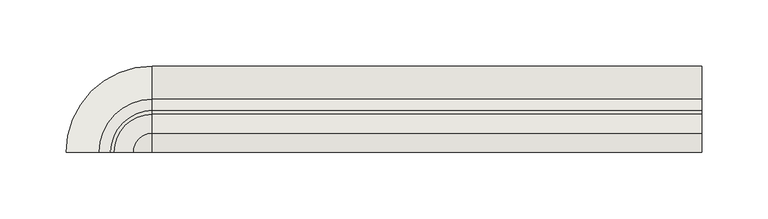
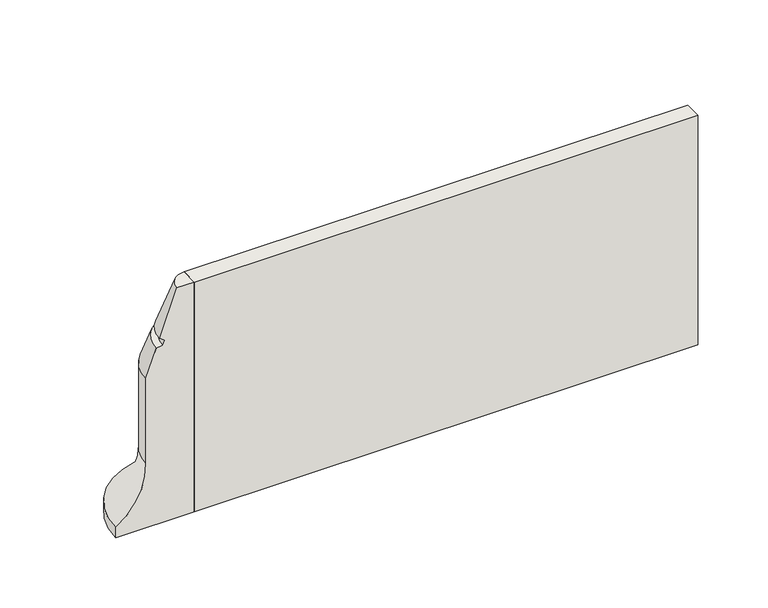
"""IFC4 building model written with IfcOpenShell, lengths in millimetres: wall geometry, GM_PC_UN_ACO kerb PB outside corner_ACO : PB H200 standard."""

from ifc_helpers import new_model, si_unit, point, frame, frame_2d, origin, place, context, project, spatial, polyline, circle_curve, ellipse_curve, trimmed, segment, composite_curve, outline, extrude, source, transform, mapped, element, save
from ifc_brep_helpers import plane_surface, cylinder_surface, revolved_surface, advanced_brep


def wall_2b59c576(model_context):
    return source(origin(), model_context, "Body", "SolidModel", [
        extrude(outline(composite_curve([segment(polyline([(40.0039527, 130.0277035), (40.0039527, 54.9895287)]), True, "CONTINUOUS"), segment(trimmed(circle_curve(frame_2d((94.2239515, 54.592465)), 54.2214526), [point((40.0039527, 54.9895287))], [point((65.0223078, 8.9062534))], True, "CARTESIAN"), True, "CONTINUOUS"), segment(polyline([(65.0223078, 8.9062534), (65.0223078, 0.0), (0.0, 0.0), (0.0, 200.0197419), (14.5292951, 200.0197419), (28.690316, 161.1592348), (24.6373807, 157.7298564), (26.03433, 154.0469313), (31.5963262, 153.428955), (40.0039527, 130.0277035)]), True, "CONTINUOUS")], self_intersect=False)), frame((0.0, 0.0, 0.0), z_axis=(1.0, 0.0, 0.0), x_axis=(0.0, 1.0, 0.0)), (0.0, 0.0, 1.0), 415.0),
        advanced_brep(
        [(0.0, 40.0039527, 130.0079616), (0.0, 31.5963262, 153.4092131), (0.0, 26.03433, 154.0271894), (0.0, 24.6373807, 157.7101145), (0.0, 28.690316, 161.1394929), (0.0, 14.5292951, 200.0), (0.0, 0.0, 200.0), (0.0, 0.0, 0.0), (0.0, 65.0, 0.0), (0.0, 65.0, 8.9062534), (0.0, 40.0039527, 55.8011862), (-40.0039527, 0.0, 130.0079616), (-40.0039527, 0.0, 55.8011862), (-65.0, 0.0, 8.9062534), (-65.0, 0.0, 0.0), (-14.5292951, 0.0, 200.0), (-28.690316, 0.0, 161.1394929), (-24.6373807, 0.0, 157.7101145), (-26.03433, 0.0, 154.0271894), (-31.5963262, 0.0, 153.4092131)],
        [
            (0, 1),
            (1, 2),
            (2, 3),
            (3, 4),
            (4, 5),
            (5, 6),
            (6, 7),
            (7, 8),
            (8, 9),
            (9, 10, circle_curve(frame((0.0, 94.2239515, 54.592465), z_axis=(-1.0, 0.0, 0.0), x_axis=(0.0, 1.0, 0.0)), 54.2334701)),
            (10, 0),
            (11, 12),
            (12, 13, circle_curve(frame((-94.2239515, 0.0, 54.592465), z_axis=(0.0, 1.0, 0.0), x_axis=(-1.0, 0.0, 0.0)), 54.2334701)),
            (13, 14),
            (14, 7),
            (6, 15),
            (15, 16),
            (16, 17),
            (17, 18),
            (18, 19),
            (19, 11),
            (19, 1, circle_curve(frame((0.0, 0.0, 153.4092131), z_axis=(0.0, 0.0, -1.0), x_axis=(0.0, 1.0, 0.0)), 31.5963262)),
            (0, 11, circle_curve(frame((0.0, 0.0, 130.0079616), z_axis=(0.0, 0.0, 1.0), x_axis=(0.0, 1.0, 0.0)), 40.0039527)),
            (18, 2, circle_curve(frame((0.0, 0.0, 154.0271894), z_axis=(0.0, 0.0, -1.0), x_axis=(0.0, 1.0, 0.0)), 26.03433)),
            (17, 3, circle_curve(frame((0.0, 0.0, 157.7101145), z_axis=(0.0, 0.0, -1.0), x_axis=(0.0, 1.0, 0.0)), 24.6373807)),
            (16, 4, circle_curve(frame((0.0, 0.0, 161.1394929), z_axis=(0.0, 0.0, -1.0), x_axis=(0.0, 1.0, 0.0)), 28.690316)),
            (15, 5, circle_curve(frame((0.0, 0.0, 200.0), z_axis=(0.0, 0.0, -1.0), x_axis=(0.0, 1.0, 0.0)), 14.5292951)),
            (14, 8, circle_curve(frame((0.0, 0.0, 0.0), z_axis=(0.0, 0.0, -1.0), x_axis=(0.0, 1.0, 0.0)), 65.0)),
            (13, 9, circle_curve(frame((0.0, 0.0, 8.9062534), z_axis=(0.0, 0.0, -1.0), x_axis=(0.0, 1.0, 0.0)), 65.0)),
            (12, 10, circle_curve(frame((0.0, 0.0, 55.8011862), z_axis=(0.0, 0.0, -1.0), x_axis=(0.0, 1.0, 0.0)), 40.0039527)),
        ],
        [
            plane_surface(frame((0.0, 0.0, 434.9802581), z_axis=(1.0, 0.0, 0.0), x_axis=(0.0, 1.0, 0.0))),
            plane_surface(frame((0.0, 0.0, 434.9802581), z_axis=(0.0, -1.0, 0.0), x_axis=(-1.0, 0.0, 0.0))),
            revolved_surface(polyline([(0.0, 40.0039527, 130.0079616), (0.0, 31.5963262, 153.4092131)]), (0.0, 0.0, 434.9802581), (0.0, 0.0, 1.0)),
            revolved_surface(polyline([(0.0, 31.5963262, 153.4092131), (0.0, 26.03433, 154.0271894)]), (0.0, 0.0, 434.9802581), (0.0, 0.0, 1.0)),
            revolved_surface(polyline([(0.0, 26.03433, 154.0271894), (0.0, 24.6373807, 157.7101145)]), (0.0, 0.0, 434.9802581), (0.0, 0.0, 1.0)),
            revolved_surface(polyline([(0.0, 24.6373807, 157.7101145), (0.0, 28.690316, 161.1394929)]), (0.0, 0.0, 434.9802581), (0.0, 0.0, 1.0)),
            revolved_surface(polyline([(0.0, 28.690316, 161.1394929), (0.0, 14.5292951, 200.0)]), (0.0, 0.0, 434.9802581), (0.0, 0.0, 1.0)),
            plane_surface(frame((0.0, 0.0, 200.0), z_axis=(0.0, 0.0, 1.0), x_axis=(0.0, 1.0, 0.0))),
            plane_surface(frame((0.0, 0.0, 0.0), z_axis=(0.0, 0.0, -1.0), x_axis=(0.0, 1.0, 0.0))),
            cylinder_surface(frame((0.0, 0.0, 434.9802581), z_axis=(0.0, 0.0, 1.0), x_axis=(0.0, 1.0, 0.0)), 65.0),
            revolved_surface(trimmed(ellipse_curve(frame((0.0, 94.2239515, 54.592465), z_axis=(-1.0, 0.0, 0.0), x_axis=(0.0, 1.0, 0.0)), 54.2334701, 54.2334701), [point((0.0, 65.0, 8.9062534))], [point((0.0, 40.0039527, 55.8011862))], True, "CARTESIAN"), (0.0, 0.0, 434.9802581), (0.0, 0.0, 1.0)),
            cylinder_surface(frame((0.0, 0.0, 434.9802581), z_axis=(0.0, 0.0, 1.0), x_axis=(0.0, 1.0, 0.0)), 40.0039527),
        ],
        [
            (0, [[1, 2, 3, 4, 5, 6, 7, 8, 9, 10, 11]]),
            (1, [[12, 13, 14, 15, -7, 16, 17, 18, 19, 20, 21]]),
            (2, [[22, -1, 23, -21]]),
            (3, [[24, -2, -22, -20]]),
            (4, [[25, -3, -24, -19]]),
            (5, [[26, -4, -25, -18]]),
            (6, [[27, -5, -26, -17]]),
            (7, [[-6, -27, -16]]),
            (8, [[28, -8, -15]]),
            (9, [[29, -9, -28, -14]]),
            (10, [[30, -10, -29, -13]]),
            (11, [[-23, -11, -30, -12]]),
        ],
    ),
    ])


if __name__ == "__main__":
    model = new_model("IFC4")
    model_context = context("Model", 3, world=origin())
    ifc_project = project(units=[si_unit("LENGTHUNIT", "METRE", prefix="MILLI")], contexts=[model_context])
    site = spatial("IfcSite", under=ifc_project)
    building = spatial("IfcBuilding", under=site)
    placement = place(None, origin())
    wall_shape = wall_2b59c576(model_context)
    element("IfcWall", 1, ObjectType="GM_PC_UN_ACO kerb PB outside corner_ACO : PB H200 standard", at=placement, inside=building, context=model_context, shape_type="MappedRepresentation", body=[
        mapped(wall_shape, transform((0.0, 0.0, 0.0), x_axis=(1.0, 0.0, 0.0), y_axis=(0.0, 1.0, 0.0), z_axis=(0.0, 0.0, 1.0))),
    ])
    save(model, "model.ifc")
